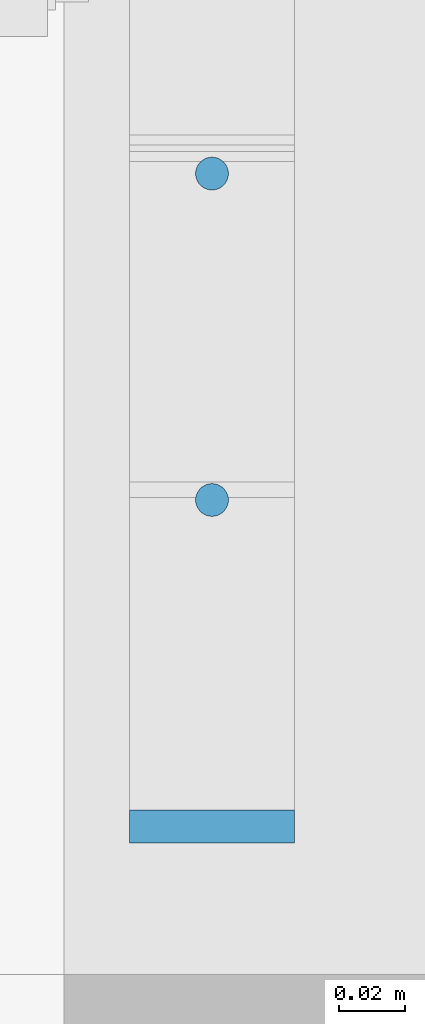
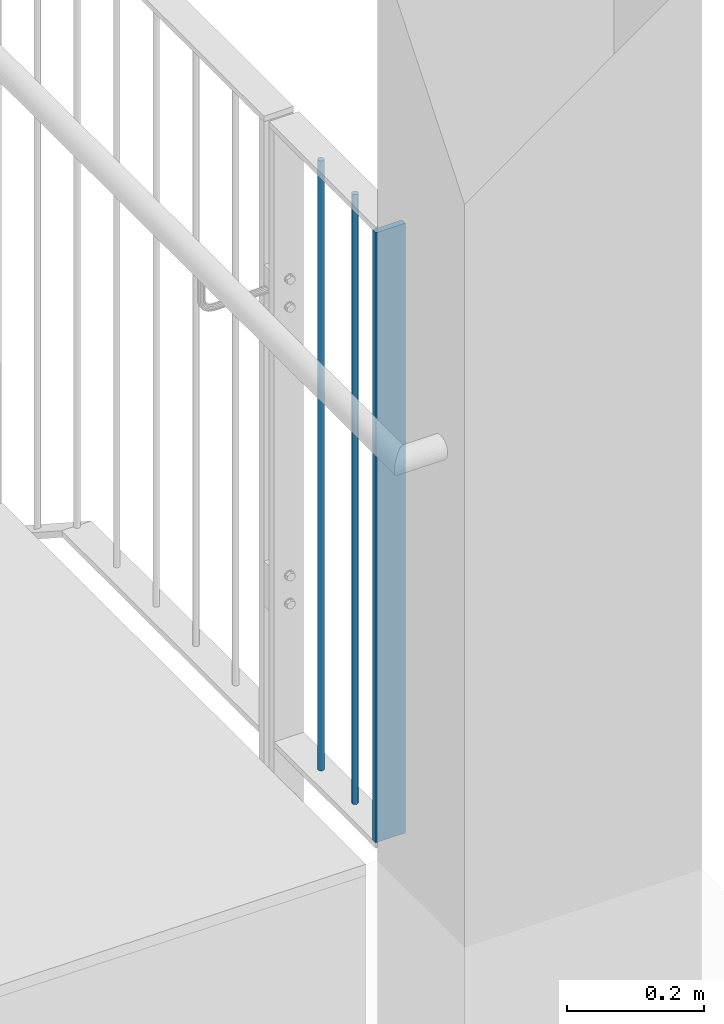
# One storey, part 24 of 296: 3 columns.
"""IFC2X3 building model written with IfcOpenShell, lengths in millimetres."""

from ifc_helpers import new_model, entity, si_unit, converted_unit, frame, origin, origin_with_axes, origin_2d, place, context, project, spatial, rectangle, circle, extrude, material, element, save


model = new_model("IFC2X3")

# Units and contexts
model_context = context("Model", 3, precision=1e-09, world=origin_with_axes())
ifc_project = project(units=[si_unit("LENGTHUNIT", "METRE", prefix="MILLI"), si_unit("AREAUNIT", "SQUARE_METRE"), si_unit("VOLUMEUNIT", "CUBIC_METRE"), converted_unit("PLANEANGLEUNIT", "DEGREE", entity("IfcPlaneAngleMeasure", 0.01745329), si_unit("PLANEANGLEUNIT", "RADIAN"), dimensions=[0, 0, 0, 0, 0, 0, 0])], contexts=[model_context])

# Site, building, storey
site_placement = place(None, origin_with_axes())
site = spatial("IfcSite", under=ifc_project, at=site_placement, Name="TZD-S?d | Treppenhausgel?nder", CompositionType="ELEMENT")
building_placement = place(site_placement, origin_with_axes())
building = spatial("IfcBuilding", under=site, at=building_placement, Name="Struktur 1", CompositionType="ELEMENT")
storey_placement = place(building_placement, origin_with_axes())
storey = spatial("IfcBuildingStorey", under=building, at=storey_placement, Name="Default Storey", CompositionType="ELEMENT", Elevation=0.0)

# Columns
ifc_material = material(Name="S235JR")
column_1_placement = place(None, frame((5894.999, -3531.666666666, 13650.0), z_axis=(0.0, 0.0, -1.0), x_axis=(0.0, 1.0, 0.0)))
element("IfcColumn", 1, at=column_1_placement, inside=storey, material=ifc_material, Name="-", ObjectType="-", context=model_context, shape_type="SweptSolid", body=[
    extrude(circle(Radius=5.0, at=origin_2d()), origin(), (0.0, 0.0, -1.0), 1090.0),
])
column_2_placement = place(None, frame((5894.999, -3730.0, 13650.0), z_axis=(0.0, 0.0, -1.0), x_axis=(0.0, 1.0, 0.0)))
element("IfcColumn", 2, at=column_2_placement, inside=storey, material=ifc_material, Name="-", ObjectType="-", context=model_context, shape_type="SweptSolid", body=[
    extrude(rectangle(XDim=10.0, YDim=50.0, at=origin_2d()), origin(), (0.0, 0.0, -1.0), 1090.0),
])
column_3_placement = place(None, frame((5894.999, -3630.833333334, 13650.0), z_axis=(0.0, 0.0, -1.0), x_axis=(0.0, 1.0, 0.0)))
element("IfcColumn", 3, at=column_3_placement, inside=storey, material=ifc_material, Name="-", ObjectType="-", context=model_context, shape_type="SweptSolid", body=[
    extrude(circle(Radius=5.0, at=origin_2d()), origin(), (0.0, 0.0, -1.0), 1090.0),
])

save(model, "model.ifc")
